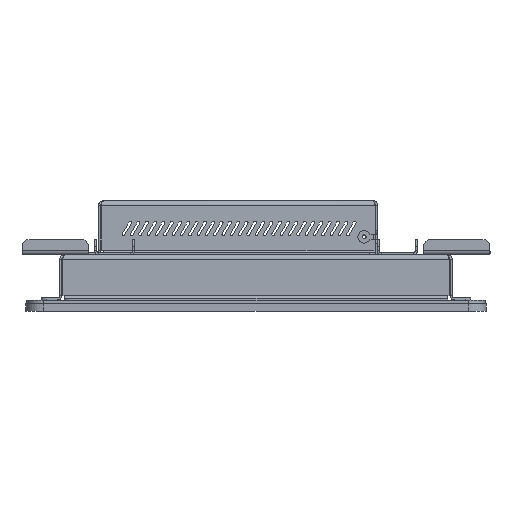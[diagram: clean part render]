
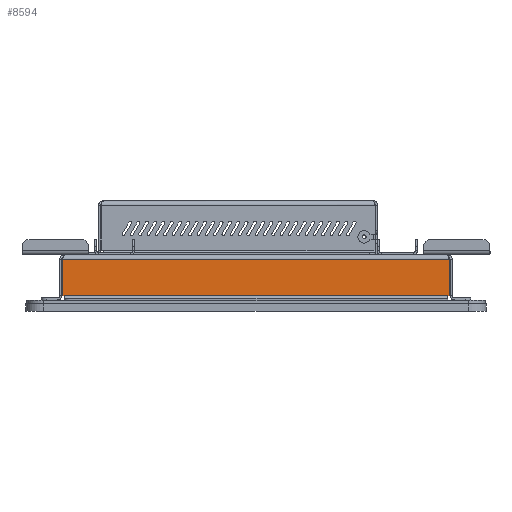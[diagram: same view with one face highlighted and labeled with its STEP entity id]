
A CAD part, left-side view. The second image highlights one B-rep face of the part: STEP entity #8594.
In plain terms, the highlighted planar face has unit normal (-1, 0, 0).
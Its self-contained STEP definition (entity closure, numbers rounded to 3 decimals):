
#8594=ADVANCED_FACE('',(#36856),#36858,.T.);
#36856=FACE_BOUND('',#36857,.T.);
#36857=EDGE_LOOP('',(#60145,#60146,#60147,#60148,#60149,#60150));
#36858=PLANE('',#36859);
#36859=AXIS2_PLACEMENT_3D('',#36860,#36861,#36862);
#36860=CARTESIAN_POINT('',(-258.5,90.624,171.722));
#36861=DIRECTION('',(-1.,0.,0.));
#36862=DIRECTION('',(0.,0.,1.));
#60145=ORIENTED_EDGE('',*,*,#74846,.F.);
#60146=ORIENTED_EDGE('',*,*,#77778,.T.);
#60147=ORIENTED_EDGE('',*,*,#77779,.T.);
#60148=ORIENTED_EDGE('',*,*,#77780,.T.);
#60149=ORIENTED_EDGE('',*,*,#77781,.T.);
#60150=ORIENTED_EDGE('',*,*,#77782,.T.);
#74846=EDGE_CURVE('',#84606,#84608,#84609,.T.);
#77778=EDGE_CURVE('',#84606,#89713,#89714,.T.);
#77779=EDGE_CURVE('',#89713,#89715,#89716,.T.);
#77780=EDGE_CURVE('',#89715,#89717,#89718,.T.);
#77781=EDGE_CURVE('',#89717,#89719,#89720,.T.);
#77782=EDGE_CURVE('',#89719,#84608,#89721,.T.);
#84606=VERTEX_POINT('',#102267);
#84608=VERTEX_POINT('',#102284);
#84609=LINE('',#102285,#102286);
#89713=VERTEX_POINT('',#113917);
#89714=LINE('',#113918,#113919);
#89715=VERTEX_POINT('',#113921);
#89716=LINE('',#113922,#113923);
#89717=VERTEX_POINT('',#113925);
#89718=LINE('',#113926,#113927);
#89719=VERTEX_POINT('',#113929);
#89720=LINE('',#113930,#113931);
#89721=LINE('',#113933,#113934);
#102267=CARTESIAN_POINT('',(-258.5,91.712,17.7));
#102284=CARTESIAN_POINT('',(-258.5,-123.463,17.7));
#102285=CARTESIAN_POINT('',(-258.5,91.712,17.7));
#102286=VECTOR('',#102287,1.);
#102287=DIRECTION('',(0.,-1.,0.));
#113917=CARTESIAN_POINT('',(-258.5,91.712,-2.6));
#113918=CARTESIAN_POINT('',(-258.5,91.712,17.7));
#113919=VECTOR('',#113920,1.);
#113920=DIRECTION('',(0.,0.,-1.));
#113921=CARTESIAN_POINT('',(-258.5,90.624,-2.6));
#113922=CARTESIAN_POINT('',(-258.5,91.712,-2.6));
#113923=VECTOR('',#113924,1.);
#113924=DIRECTION('',(0.,-1.,0.));
#113925=CARTESIAN_POINT('',(-258.5,-122.376,-2.6));
#113926=CARTESIAN_POINT('',(-258.5,90.624,-2.6));
#113927=VECTOR('',#113928,1.);
#113928=DIRECTION('',(0.,-1.,0.));
#113929=CARTESIAN_POINT('',(-258.5,-123.463,-2.6));
#113930=CARTESIAN_POINT('',(-258.5,-122.376,-2.6));
#113931=VECTOR('',#113932,1.);
#113932=DIRECTION('',(0.,-1.,0.));
#113933=CARTESIAN_POINT('',(-258.5,-123.463,-2.6));
#113934=VECTOR('',#113935,1.);
#113935=DIRECTION('',(0.,0.,1.));
